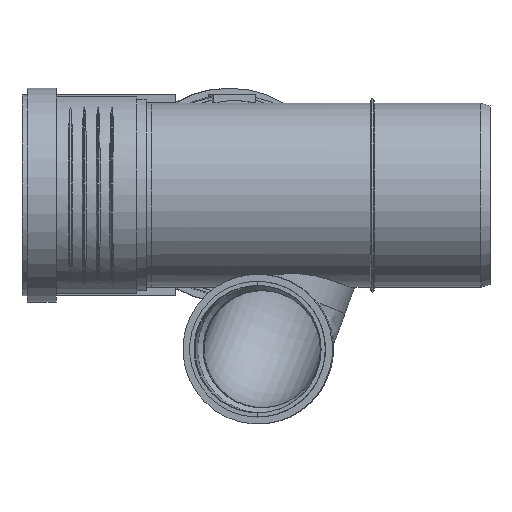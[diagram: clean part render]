
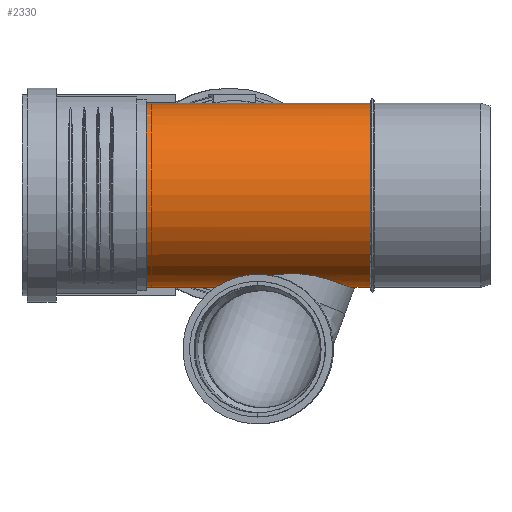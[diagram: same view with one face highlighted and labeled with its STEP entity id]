
A CAD part, left-side view. The second image highlights one B-rep face of the part: STEP entity #2330.
In plain terms, the highlighted cylindrical face has radius 55.1 mm (diameter 110.2 mm), a full revolution.
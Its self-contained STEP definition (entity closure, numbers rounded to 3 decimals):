
#106=FACE_BOUND($,#506,.T.);
#190=B_SPLINE_CURVE_WITH_KNOTS($,3,(#3794,#3795,#3796,#3797,#3798,#3799,
#3800,#3801,#3802,#3803,#3804,#3805,#3806,#3807,#3808,#3809,#3810,#3811),
 .UNSPECIFIED.,.F.,.F.,(4,2,2,2,2,2,2,2,4),(2.385,3.339,
4.61,5.692,6.723,7.318,7.752,
8.247,8.492),.UNSPECIFIED.);
#192=B_SPLINE_CURVE_WITH_KNOTS($,3,(#3827,#3828,#3829,#3830,#3831,#3832,
#3833,#3834,#3835,#3836,#3837,#3838,#3839,#3840,#3841,#3842,#3843,#3844,
#3845,#3846,#3847,#3848,#3849,#3850,#3851,#3852,#3853,#3854),
 .UNSPECIFIED.,.F.,.F.,(4,2,2,2,2,2,2,2,2,2,2,2,2,4),(-14.095,
-13.335,-12.543,-11.75,-11.031,
-10.311,-9.591,-8.872,-8.156,
-7.441,-6.726,-6.011,-5.22,
-4.835),.UNSPECIFIED.);
#194=B_SPLINE_CURVE_WITH_KNOTS($,3,(#3879,#3880,#3881,#3882,#3883,#3884,
#3885,#3886),.UNSPECIFIED.,.F.,.F.,(4,2,2,4),(39.866,40.055,
41.233,42.481),.UNSPECIFIED.);
#195=B_SPLINE_CURVE_WITH_KNOTS($,3,(#3889,#3890,#3891,#3892,#3893,#3894,
#3895,#3896,#3897,#3898,#3899,#3900,#3901,#3902,#3903,#3904,#3905,#3906,
#3907,#3908,#3909,#3910,#3911,#3912,#3913,#3914,#3915,#3916,#3917,#3918,
#3919,#3920),.UNSPECIFIED.,.F.,.F.,(4,2,2,2,2,2,2,2,2,2,2,2,2,2,2,4),(0.,
1.202,2.458,3.4,4.559,6.655,
10.232,13.771,16.647,18.787,20.115,
21.302,22.828,25.256,27.754,30.423),
 .UNSPECIFIED.);
#364=FACE_OUTER_BOUND($,#505,.T.);
#505=EDGE_LOOP($,(#1585));
#506=EDGE_LOOP($,(#1586,#1587,#1588,#1589,#1590));
#701=CIRCLE($,#2505,55.1);
#702=CIRCLE($,#2506,55.1);
#982=VERTEX_POINT($,#3792);
#983=VERTEX_POINT($,#3793);
#986=VERTEX_POINT($,#3826);
#988=VERTEX_POINT($,#3876);
#989=VERTEX_POINT($,#3878);
#990=VERTEX_POINT($,#3887);
#1226=EDGE_CURVE($,#982,#983,#190,.T.);
#1231=EDGE_CURVE($,#983,#986,#192,.T.);
#1234=EDGE_CURVE($,#988,#988,#701,.T.);
#1235=EDGE_CURVE($,#986,#989,#194,.T.);
#1236=EDGE_CURVE($,#989,#990,#702,.T.);
#1237=EDGE_CURVE($,#990,#982,#195,.T.);
#1585=ORIENTED_EDGE($,*,*,#1234,.F.);
#1586=ORIENTED_EDGE($,*,*,#1226,.T.);
#1587=ORIENTED_EDGE($,*,*,#1231,.T.);
#1588=ORIENTED_EDGE($,*,*,#1235,.T.);
#1589=ORIENTED_EDGE($,*,*,#1236,.T.);
#1590=ORIENTED_EDGE($,*,*,#1237,.T.);
#2129=CYLINDRICAL_SURFACE($,#2504,55.1);
#2330=ADVANCED_FACE($,(#364,#106),#2129,.T.);
#2504=AXIS2_PLACEMENT_3D($,#3875,#2824,#2825);
#2505=AXIS2_PLACEMENT_3D($,#3877,#2826,#2827);
#2506=AXIS2_PLACEMENT_3D($,#3888,#2828,#2829);
#2824=DIRECTION('center_axis',(0.,1.,0.));
#2825=DIRECTION('ref_axis',(-1.,0.,0.));
#2826=DIRECTION('center_axis',(0.,1.,0.));
#2827=DIRECTION('ref_axis',(-1.,0.,0.));
#2828=DIRECTION('center_axis',(0.,1.,0.));
#2829=DIRECTION('ref_axis',(-1.,0.,0.));
#3792=CARTESIAN_POINT('',(26.51,153.417,-48.304));
#3793=CARTESIAN_POINT('',(-22.872,141.606,-50.129));
#3794=CARTESIAN_POINT('Ctrl Pts',(26.51,153.417,-48.304));
#3795=CARTESIAN_POINT('Ctrl Pts',(24.197,155.204,-49.573));
#3796=CARTESIAN_POINT('Ctrl Pts',(21.647,156.735,-50.755));
#3797=CARTESIAN_POINT('Ctrl Pts',(15.204,159.563,-53.105));
#3798=CARTESIAN_POINT('Ctrl Pts',(11.189,160.599,-54.116));
#3799=CARTESIAN_POINT('Ctrl Pts',(3.448,161.08,-55.109));
#3800=CARTESIAN_POINT('Ctrl Pts',(-0.129,160.729,-55.207));
#3801=CARTESIAN_POINT('Ctrl Pts',(-6.844,158.754,-54.772));
#3802=CARTESIAN_POINT('Ctrl Pts',(-9.849,157.232,-54.282));
#3803=CARTESIAN_POINT('Ctrl Pts',(-14.06,153.982,-53.3));
#3804=CARTESIAN_POINT('Ctrl Pts',(-15.449,152.645,-52.907));
#3805=CARTESIAN_POINT('Ctrl Pts',(-17.637,150.097,-52.21));
#3806=CARTESIAN_POINT('Ctrl Pts',(-18.475,148.972,-51.917));
#3807=CARTESIAN_POINT('Ctrl Pts',(-20.162,146.438,-51.288));
#3808=CARTESIAN_POINT('Ctrl Pts',(-20.922,145.128,-50.981));
#3809=CARTESIAN_POINT('Ctrl Pts',(-22.132,142.945,-50.462));
#3810=CARTESIAN_POINT('Ctrl Pts',(-22.509,142.252,-50.294));
#3811=CARTESIAN_POINT('Ctrl Pts',(-22.872,141.606,-50.129));
#3826=CARTESIAN_POINT('',(19.988,81.372,-51.347));
#3827=CARTESIAN_POINT('Ctrl Pts',(-22.872,141.606,-50.129));
#3828=CARTESIAN_POINT('Ctrl Pts',(-24.148,139.334,-49.547));
#3829=CARTESIAN_POINT('Ctrl Pts',(-25.254,136.917,-48.983));
#3830=CARTESIAN_POINT('Ctrl Pts',(-27.102,131.816,-47.986));
#3831=CARTESIAN_POINT('Ctrl Pts',(-27.827,129.122,-47.56));
#3832=CARTESIAN_POINT('Ctrl Pts',(-28.797,123.712,-46.979));
#3833=CARTESIAN_POINT('Ctrl Pts',(-29.041,120.995,-46.826));
#3834=CARTESIAN_POINT('Ctrl Pts',(-29.041,115.955,-46.826));
#3835=CARTESIAN_POINT('Ctrl Pts',(-28.838,113.479,-46.953));
#3836=CARTESIAN_POINT('Ctrl Pts',(-27.948,108.582,-47.489));
#3837=CARTESIAN_POINT('Ctrl Pts',(-27.26,106.161,-47.896));
#3838=CARTESIAN_POINT('Ctrl Pts',(-25.403,101.559,-48.906));
#3839=CARTESIAN_POINT('Ctrl Pts',(-24.234,99.371,-49.508));
#3840=CARTESIAN_POINT('Ctrl Pts',(-21.501,95.352,-50.754));
#3841=CARTESIAN_POINT('Ctrl Pts',(-19.937,93.522,-51.397));
#3842=CARTESIAN_POINT('Ctrl Pts',(-16.601,90.301,-52.569));
#3843=CARTESIAN_POINT('Ctrl Pts',(-14.716,88.8,-53.14));
#3844=CARTESIAN_POINT('Ctrl Pts',(-10.604,86.137,-54.111));
#3845=CARTESIAN_POINT('Ctrl Pts',(-8.377,84.975,-54.51));
#3846=CARTESIAN_POINT('Ctrl Pts',(-3.733,83.058,-55.023));
#3847=CARTESIAN_POINT('Ctrl Pts',(-1.31,82.301,-55.138));
#3848=CARTESIAN_POINT('Ctrl Pts',(3.552,81.202,-55.039));
#3849=CARTESIAN_POINT('Ctrl Pts',(5.991,80.861,-54.825));
#3850=CARTESIAN_POINT('Ctrl Pts',(10.944,80.53,-54.066));
#3851=CARTESIAN_POINT('Ctrl Pts',(13.603,80.57,-53.465));
#3852=CARTESIAN_POINT('Ctrl Pts',(17.488,80.961,-52.268));
#3853=CARTESIAN_POINT('Ctrl Pts',(18.748,81.142,-51.829));
#3854=CARTESIAN_POINT('Ctrl Pts',(19.988,81.372,-51.347));
#3875=CARTESIAN_POINT('Origin',(0.,141.69,0.));
#3876=CARTESIAN_POINT('',(-55.1,211.78,0.));
#3877=CARTESIAN_POINT('Origin',(0.,211.78,0.));
#3878=CARTESIAN_POINT('',(34.721,71.6,-42.784));
#3879=CARTESIAN_POINT('Ctrl Pts',(19.988,81.372,-51.347));
#3880=CARTESIAN_POINT('Ctrl Pts',(20.291,81.029,-51.229));
#3881=CARTESIAN_POINT('Ctrl Pts',(20.603,80.693,-51.104));
#3882=CARTESIAN_POINT('Ctrl Pts',(22.932,78.312,-50.148));
#3883=CARTESIAN_POINT('Ctrl Pts',(25.181,76.654,-49.081));
#3884=CARTESIAN_POINT('Ctrl Pts',(29.904,73.779,-46.364));
#3885=CARTESIAN_POINT('Ctrl Pts',(32.367,72.599,-44.695));
#3886=CARTESIAN_POINT('Ctrl Pts',(34.721,71.6,-42.784));
#3887=CARTESIAN_POINT('',(34.721,71.6,42.784));
#3888=CARTESIAN_POINT('Origin',(0.,71.6,0.));
#3889=CARTESIAN_POINT('Ctrl Pts',(34.721,71.6,42.784));
#3890=CARTESIAN_POINT('Ctrl Pts',(31.767,72.854,45.181));
#3891=CARTESIAN_POINT('Ctrl Pts',(28.835,74.32,47.052));
#3892=CARTESIAN_POINT('Ctrl Pts',(23.337,77.963,50.016));
#3893=CARTESIAN_POINT('Ctrl Pts',(20.698,80.231,51.115));
#3894=CARTESIAN_POINT('Ctrl Pts',(16.952,85.337,52.455));
#3895=CARTESIAN_POINT('Ctrl Pts',(15.741,87.74,52.811));
#3896=CARTESIAN_POINT('Ctrl Pts',(13.818,93.595,53.351));
#3897=CARTESIAN_POINT('Ctrl Pts',(13.329,97.032,53.464));
#3898=CARTESIAN_POINT('Ctrl Pts',(12.948,106.582,53.558));
#3899=CARTESIAN_POINT('Ctrl Pts',(13.835,113.182,53.351));
#3900=CARTESIAN_POINT('Ctrl Pts',(17.236,129.435,52.382));
#3901=CARTESIAN_POINT('Ctrl Pts',(20.995,140.51,51.201));
#3902=CARTESIAN_POINT('Ctrl Pts',(30.042,161.737,46.468));
#3903=CARTESIAN_POINT('Ctrl Pts',(35.016,171.274,43.063));
#3904=CARTESIAN_POINT('Ctrl Pts',(43.414,185.979,34.361));
#3905=CARTESIAN_POINT('Ctrl Pts',(46.697,191.202,29.795));
#3906=CARTESIAN_POINT('Ctrl Pts',(51.144,198.079,20.933));
#3907=CARTESIAN_POINT('Ctrl Pts',(52.757,200.478,16.633));
#3908=CARTESIAN_POINT('Ctrl Pts',(54.463,202.99,8.888));
#3909=CARTESIAN_POINT('Ctrl Pts',(54.886,203.604,5.8));
#3910=CARTESIAN_POINT('Ctrl Pts',(55.173,204.021,-0.209));
#3911=CARTESIAN_POINT('Ctrl Pts',(55.088,203.899,-3.043));
#3912=CARTESIAN_POINT('Ctrl Pts',(54.406,202.905,-9.435));
#3913=CARTESIAN_POINT('Ctrl Pts',(53.683,201.849,-12.861));
#3914=CARTESIAN_POINT('Ctrl Pts',(51.144,198.067,-21.187));
#3915=CARTESIAN_POINT('Ctrl Pts',(48.848,194.608,-26.032));
#3916=CARTESIAN_POINT('Ctrl Pts',(42.941,185.109,-34.95));
#3917=CARTESIAN_POINT('Ctrl Pts',(39.63,179.503,-38.519));
#3918=CARTESIAN_POINT('Ctrl Pts',(33.002,167.289,-44.359));
#3919=CARTESIAN_POINT('Ctrl Pts',(29.605,160.476,-46.605));
#3920=CARTESIAN_POINT('Ctrl Pts',(26.51,153.417,-48.304));
